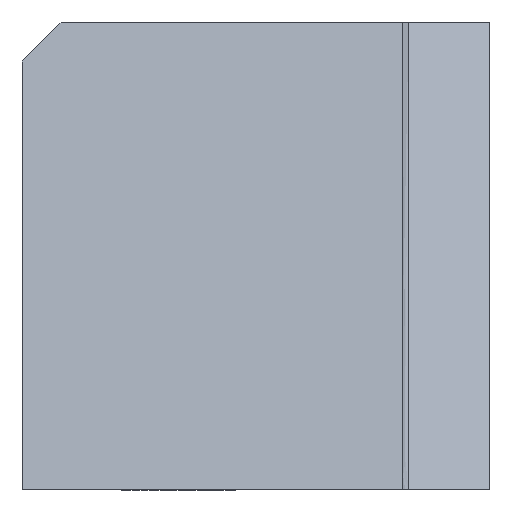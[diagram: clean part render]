
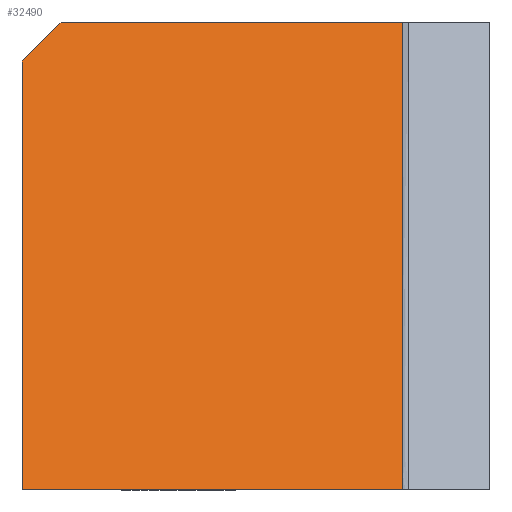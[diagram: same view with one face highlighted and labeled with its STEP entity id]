
A CAD part, left-side view. The second image highlights one B-rep face of the part: STEP entity #32490.
In plain terms, the highlighted planar face has unit normal (-0.943, 0, 0.334).
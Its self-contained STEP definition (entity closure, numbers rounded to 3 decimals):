
#3302=ORIENTED_EDGE('',*,*,#10470,.F.);
#3303=ORIENTED_EDGE('',*,*,#10471,.T.);
#3304=ORIENTED_EDGE('',*,*,#8528,.F.);
#3305=ORIENTED_EDGE('',*,*,#10472,.F.);
#3306=ORIENTED_EDGE('',*,*,#9567,.F.);
#8528=EDGE_CURVE('',#12112,#12113,#14477,.T.);
#9567=EDGE_CURVE('',#13150,#13152,#15175,.T.);
#10470=EDGE_CURVE('',#14054,#13150,#15778,.T.);
#10471=EDGE_CURVE('',#14054,#12113,#15779,.T.);
#10472=EDGE_CURVE('',#13152,#12112,#15780,.T.);
#12112=VERTEX_POINT('',#41987);
#12113=VERTEX_POINT('',#41988);
#13150=VERTEX_POINT('',#44588);
#13152=VERTEX_POINT('',#44591);
#14054=VERTEX_POINT('',#46397);
#14477=LINE('',#41986,#17263);
#15175=LINE('',#44590,#17961);
#15778=LINE('',#46396,#18564);
#15779=LINE('',#46398,#18565);
#15780=LINE('',#46399,#18566);
#17263=VECTOR('',#35424,1000.);
#17961=VECTOR('',#36744,1000.);
#18564=VECTOR('',#37949,1000.);
#18565=VECTOR('',#37950,1000.);
#18566=VECTOR('',#37951,1000.);
#20013=EDGE_LOOP('',(#3302,#3303,#3304,#3305,#3306));
#21397=FACE_BOUND('',#20013,.T.);
#22719=PLANE('',#34388);
#32490=ADVANCED_FACE('',(#21397),#22719,.T.);
#34388=AXIS2_PLACEMENT_3D('',#46395,#37947,#37948);
#35424=DIRECTION('',(0.,1.,0.));
#36744=DIRECTION('',(0.,-1.,0.));
#37947=DIRECTION('',(-0.942,0.,0.334));
#37948=DIRECTION('',(0.,1.,0.));
#37949=DIRECTION('',(0.243,-0.686,0.686));
#37950=DIRECTION('',(-0.334,0.,-0.942));
#37951=DIRECTION('',(-0.334,0.,-0.942));
#41986=CARTESIAN_POINT('',(-8.512,0.,-24.));
#41987=CARTESIAN_POINT('',(-8.512,-19.5,-24.));
#41988=CARTESIAN_POINT('',(-8.512,0.,-24.));
#44588=CARTESIAN_POINT('',(0.,-2.,0.));
#44590=CARTESIAN_POINT('',(0.,0.,0.));
#44591=CARTESIAN_POINT('',(0.,-19.5,0.));
#46395=CARTESIAN_POINT('',(0.,-19.5,0.));
#46396=CARTESIAN_POINT('',(1.342,-5.785,3.785));
#46397=CARTESIAN_POINT('',(-0.709,0.,-2.));
#46398=CARTESIAN_POINT('',(0.,0.,0.));
#46399=CARTESIAN_POINT('',(0.,-19.5,0.));
